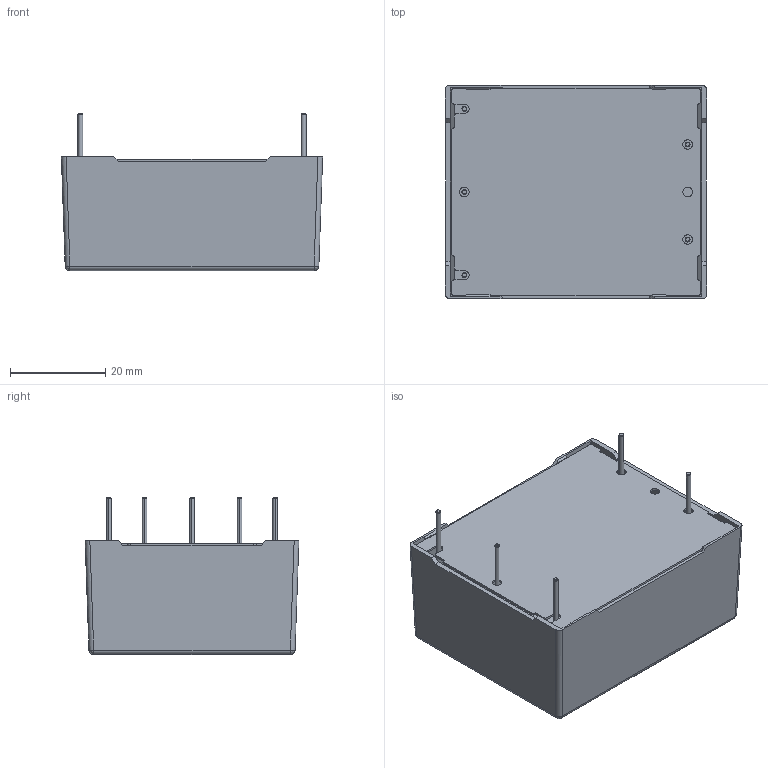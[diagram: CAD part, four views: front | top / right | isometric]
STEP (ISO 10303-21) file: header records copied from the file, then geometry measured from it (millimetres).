
FILE_DESCRIPTION (( 'STEP AP214' ), '1' );
FILE_NAME ('tms10-pcb-single.STEP', '2015-12-22T13:07:11', ( '' ), ( '' ), 'SwSTEP 2.0', 'SolidWorks 2013', '' );
FILE_SCHEMA (( 'AUTOMOTIVE_DESIGN' ));
Length unit declared in the file: millimetre
Products named in the file (4): Pin; Base; Case; tms10-pcb-single
Assembly tree (7 placements, depth 2):
  tms10-pcb-single
    Case
    Base
    Pin  x5
Bounding box: 55 x 45 x 33.1 mm (x, y, z)
Volume: 7400.2 mm3; surface area: 18333.4 mm2
Topology: 7 solids, 7 shells, 243 faces, 622 edges, 396 vertices
Faces by surface type: plane 132, cylinder 83, cone 20, sphere 4, bspline 4
Entity records: 9057 total; most frequent: CARTESIAN_POINT 1367, ORIENTED_EDGE 1132, DIRECTION 1038, EDGE_CURVE 566, VECTOR 424, LINE 424, VERTEX_POINT 364, AXIS2_PLACEMENT_3D 307
